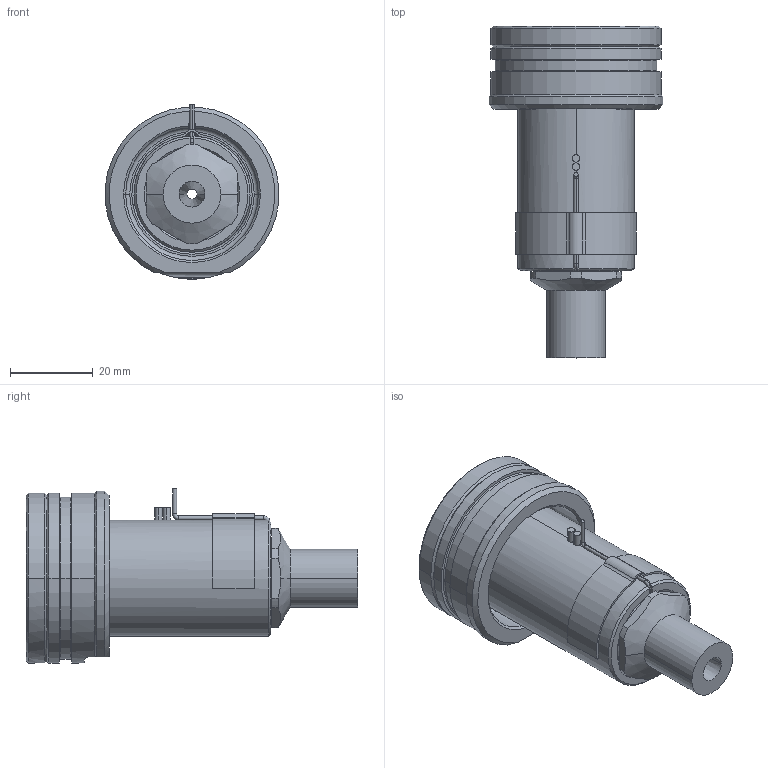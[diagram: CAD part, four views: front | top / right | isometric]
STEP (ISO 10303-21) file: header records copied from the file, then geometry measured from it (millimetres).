
FILE_DESCRIPTION((''),'2;1');
FILE_NAME('EO10_SG_ESG_050_SW','2024-02-19T12:25:07',('sundharh'),(''),'CREO PARAMETRIC BY PTC INC, 2023154','CREO PARAMETRIC BY PTC INC, 2023154','');
FILE_SCHEMA(('CONFIG_CONTROL_DESIGN'));
Length unit declared in the file: millimetre
Products named in the file (1): EO10_SG_ESG_050_SW
Bounding box: 41.85 x 80 x 42.02 mm (x, y, z)
Volume: 46957.4 mm3; surface area: 14774.4 mm2
Topology: 1 solids, 1 shells, 160 faces, 409 edges, 252 vertices
Faces by surface type: cylinder 63, plane 45, cone 29, torus 17, bspline 3, sphere 3
Entity records: 5493 total; most frequent: CARTESIAN_POINT 1544, DIRECTION 857, ORIENTED_EDGE 810, EDGE_CURVE 405, AXIS2_PLACEMENT_3D 353, VERTEX_POINT 252, CIRCLE 196, EDGE_LOOP 175
